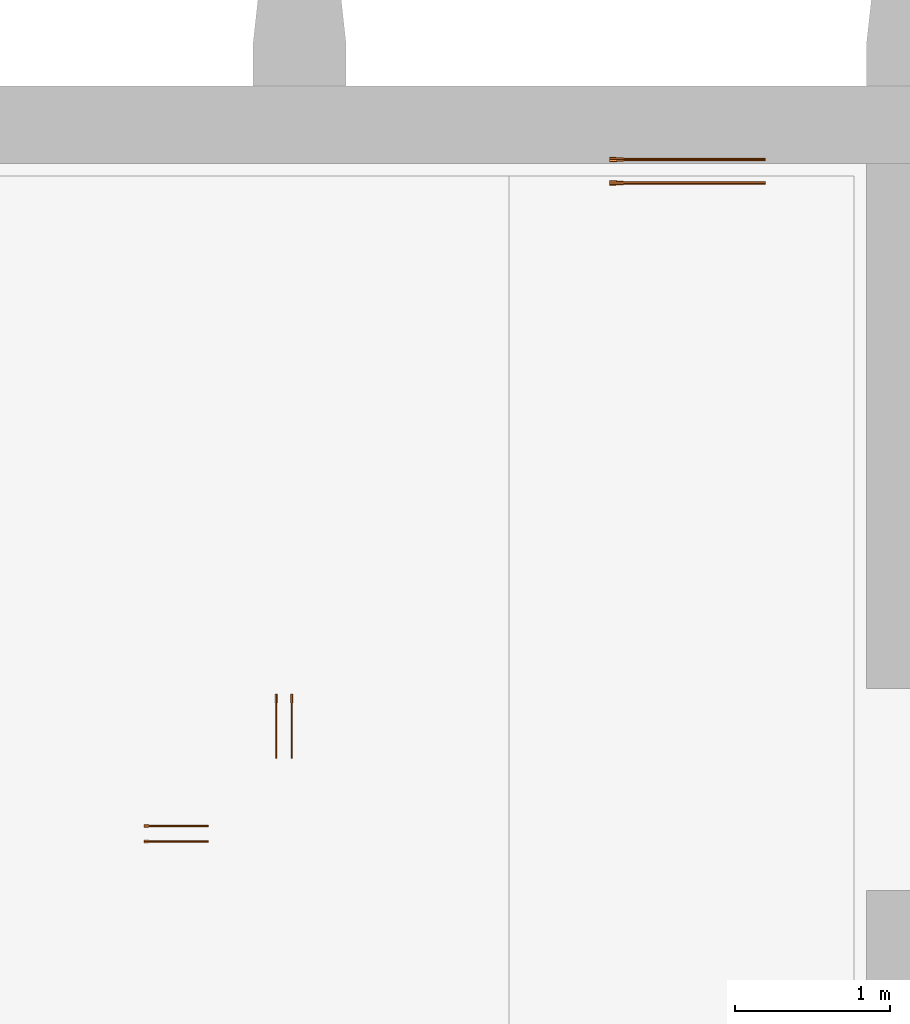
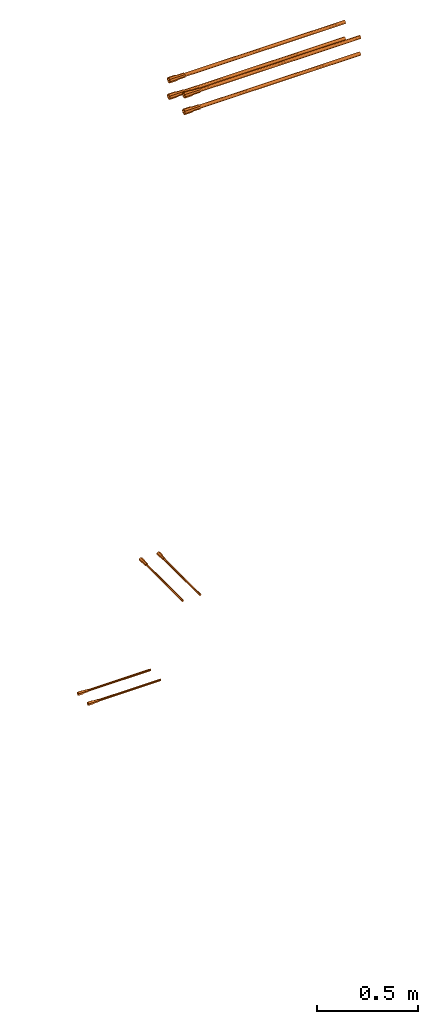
# One storey, part 22 of 22: 8 proxies.
"""IFC2X3 building model written with IfcOpenShell, lengths in millimetres."""

from ifc_helpers import new_model, entity, si_unit, converted_unit, derived_unit, direction, frame, frame_2d, origin, place, context, subcontext, project, spatial, circle, extrude, faceted_brep, source, transform, mapped, type_object, type_shapes, element, save


model = new_model("IFC2X3")

# Units and contexts
model_context = context("Model", 3, precision=0.01, world=origin(), true_north=direction((6.12303176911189e-17, 1.0)))
body_context = subcontext(model_context, "Body", "Model", "MODEL_VIEW")
ifc_project = project(units=[si_unit("LENGTHUNIT", "METRE", prefix="MILLI"), si_unit("AREAUNIT", "SQUARE_METRE"), si_unit("VOLUMEUNIT", "CUBIC_METRE"), converted_unit("PLANEANGLEUNIT", "DEGREE", entity("IfcRatioMeasure", 0.0174532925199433), si_unit("PLANEANGLEUNIT", "RADIAN"), dimensions=[0, 0, 0, 0, 0, 0, 0]), si_unit("MASSUNIT", "GRAM", prefix="KILO"), derived_unit("MASSDENSITYUNIT", [(si_unit("MASSUNIT", "GRAM", prefix="KILO"), 1), (si_unit("LENGTHUNIT", "METRE"), -3)]), si_unit("TIMEUNIT", "SECOND"), si_unit("FREQUENCYUNIT", "HERTZ"), si_unit("THERMODYNAMICTEMPERATUREUNIT", "DEGREE_CELSIUS"), derived_unit("THERMALTRANSMITTANCEUNIT", [(si_unit("MASSUNIT", "GRAM", prefix="KILO"), 1), (si_unit("THERMODYNAMICTEMPERATUREUNIT", "KELVIN"), -1), (si_unit("TIMEUNIT", "SECOND"), -3)]), derived_unit("VOLUMETRICFLOWRATEUNIT", [(si_unit("LENGTHUNIT", "METRE"), 3), (si_unit("TIMEUNIT", "SECOND"), -1)]), si_unit("ELECTRICCURRENTUNIT", "AMPERE"), si_unit("ELECTRICVOLTAGEUNIT", "VOLT"), si_unit("POWERUNIT", "WATT"), si_unit("FORCEUNIT", "NEWTON", prefix="KILO"), si_unit("ILLUMINANCEUNIT", "LUX"), si_unit("LUMINOUSFLUXUNIT", "LUMEN"), si_unit("LUMINOUSINTENSITYUNIT", "CANDELA"), derived_unit("USERDEFINED", [(si_unit("MASSUNIT", "GRAM", prefix="KILO"), -1), (si_unit("LENGTHUNIT", "METRE"), -2), (si_unit("TIMEUNIT", "SECOND"), 3), (si_unit("LUMINOUSFLUXUNIT", "LUMEN"), 1)]), derived_unit("LINEARVELOCITYUNIT", [(si_unit("LENGTHUNIT", "METRE"), 1), (si_unit("TIMEUNIT", "SECOND"), -1)]), si_unit("PRESSUREUNIT", "PASCAL"), derived_unit("USERDEFINED", [(si_unit("LENGTHUNIT", "METRE"), -2), (si_unit("MASSUNIT", "GRAM", prefix="KILO"), 1), (si_unit("TIMEUNIT", "SECOND"), -2)])], contexts=[model_context])

# Site, building, storey
site_placement = place(None, origin())
site = spatial("IfcSite", under=ifc_project, at=site_placement, Name="Default", CompositionType="ELEMENT")
building_placement = place(site_placement, origin())
building = spatial("IfcBuilding", under=site, at=building_placement, Name="niet gebruiken", CompositionType="ELEMENT")
storey_placement = place(building_placement, frame((0.0, 0.0, 15000.0)))
storey = spatial("IfcBuildingStorey", under=building, at=storey_placement, Name="04 vierde verdieping", CompositionType="ELEMENT", Elevation=15000.0)

# Proxies
building_element_proxy_type_1 = type_object("IfcBuildingElementProxyType", Name="Ø12/M16x415", PredefinedType="NOTDEFINED")
shared_shape_1 = source(origin(), body_context, "Body", "SolidModel", [
    extrude(circle(Radius=6.0, at=frame_2d((0.0, -9.69326744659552e-15), x_axis=(1.0, 0.0))), frame((34.9769027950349, 0.0, -415.0)), (0.0, 0.0, 1.0), 357.0),
    extrude(circle(Radius=6.0, at=frame_2d((0.0, -9.69326744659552e-15), x_axis=(1.0, 0.0))), frame((34.9769027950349, 0.0, -415.0)), (0.0, 0.0, 1.0), 357.0),
    faceted_brep([(24.476902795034, 0.0, 0.0), (29.7269027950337, 9.0932667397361, 0.0), (29.7269027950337, 9.0932667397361, -25.0), (24.476902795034, 0.0, -25.0), (40.2269027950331, 9.09326673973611, 0.0), (40.2269027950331, 9.09326673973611, -25.0), (45.4769027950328, 0.0, 0.0), (45.4769027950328, 0.0, -25.0), (40.2269027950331, -9.09326673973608, 0.0), (40.2269027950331, -9.09326673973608, -25.0), (29.7269027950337, -9.09326673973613, 0.0), (29.7269027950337, -9.09326673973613, -25.0), (30.8519027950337, 7.14470958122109, -33.0), (26.726902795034, 0.0, -33.0), (39.1019027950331, 7.14470958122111, -33.0), (43.2269027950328, 0.0, -33.0), (39.1019027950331, -7.14470958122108, -33.0), (30.8519027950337, -7.14470958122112, -33.0), (30.8519027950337, 7.14470958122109, -58.0), (26.726902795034, 0.0, -58.0), (39.1019027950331, 7.14470958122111, -58.0), (43.2269027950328, 0.0, -58.0), (39.1019027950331, -7.14470958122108, -58.0), (30.8519027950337, -7.14470958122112, -58.0), (34.9769027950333, 0.0, -58.0), (34.9769027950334, 0.0, -25.0), (43.2269027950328, 0.0, -25.0), (39.1019027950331, 7.14470958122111, -25.0), (30.8519027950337, 7.14470958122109, -25.0), (26.726902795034, 0.0, -25.0), (39.1019027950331, -7.14470958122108, -25.0), (30.8519027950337, -7.14470958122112, -25.0), (30.8519027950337, 7.14470958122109, 0.0), (26.726902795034, 0.0, 0.0), (39.1019027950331, 7.14470958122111, 0.0), (43.2269027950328, 0.0, 0.0), (39.1019027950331, -7.14470958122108, 0.0), (30.8519027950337, -7.14470958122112, 0.0)], [[[0, 1, 2, 3]], [[1, 4, 5, 2]], [[4, 6, 7, 5]], [[6, 8, 9, 7]], [[8, 10, 11, 9]], [[10, 0, 3, 11]], [[3, 2, 12, 13]], [[2, 5, 14, 12]], [[5, 7, 15, 14]], [[7, 9, 16, 15]], [[9, 11, 17, 16]], [[11, 3, 13, 17]], [[13, 12, 18, 19]], [[12, 14, 20, 18]], [[14, 15, 21, 20]], [[15, 16, 22, 21]], [[16, 17, 23, 22]], [[17, 13, 19, 23]], [[20, 21, 24]], [[24, 18, 20]], [[21, 22, 24]], [[23, 24, 22]], [[24, 23, 19]], [[24, 19, 18]], [[25, 26, 27]], [[27, 28, 25]], [[28, 29, 25]], [[25, 30, 26]], [[29, 31, 25]], [[30, 25, 31]], [[28, 32, 33, 29]], [[28, 27, 34, 32]], [[26, 35, 34, 27]], [[30, 36, 35, 26]], [[30, 31, 37, 36]], [[29, 33, 37, 31]], [[4, 35, 6]], [[35, 4, 34]], [[32, 34, 4]], [[4, 1, 32]], [[33, 32, 1]], [[1, 0, 33]], [[10, 33, 0]], [[33, 10, 37]], [[8, 37, 10]], [[35, 36, 8]], [[37, 8, 36]], [[8, 6, 35]]]),
])
type_shapes(building_element_proxy_type_1, [shared_shape_1])
for number, where, z_axis, x_axis in (
    (1, (130750.0, 28465.0, 153000.023097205), (-1.0, 0.0, 0.0), (0.0, 0.0, 1.0)),
    (2, (130750.0, 28365.0, 153000.023097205), (-1.0, 0.0, 0.0), (0.0, 0.0, 1.0)),
    (3, (131700.0, 29315.0, 153000.023097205), (0.0, 1.0, 0.0), (0.0, 0.0, 1.0)),
    (4, (131600.0, 29315.0, 153000.023097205), (0.0, 1.0, 0.0), (0.0, 0.0, 1.0)),
):
    element("IfcBuildingElementProxy", number, at=place(storey_placement, frame(where, z_axis=z_axis, x_axis=x_axis)), inside=storey, type_object=building_element_proxy_type_1, Name="GM_Stekanker_DEMU_4010 GV:Ø12/M16x415", ObjectType="Ø12/M16x415", context=body_context, shape_type="MappedRepresentation", body=[
        mapped(shared_shape_1, transform((0.0, 0.0, 0.0), scale=1.0)),
    ])
building_element_proxy_type_2 = type_object("IfcBuildingElementProxyType", Name="Ø20/M24x1005", PredefinedType="NOTDEFINED")
shared_shape_2 = source(origin(), body_context, "Body", "SolidModel", [
    extrude(circle(Radius=10.0, at=frame_2d((0.0, -1.61554457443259e-14), x_axis=(1.0, 0.0))), frame((34.9769027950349, 0.0, -1005.0)), (0.0, 0.0, 1.0), 915.0),
    extrude(circle(Radius=10.0, at=frame_2d((0.0, -1.61554457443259e-14), x_axis=(1.0, 0.0))), frame((34.9769027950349, 0.0, -1005.0)), (0.0, 0.0, 1.0), 915.0),
    faceted_brep([(29.3200485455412, 13.6568542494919, 0.0), (32.1484756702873, 14.8284271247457, 0.0), (34.9769027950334, 16.0, 0.0), (34.9769027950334, 16.0, -38.0), (32.1484756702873, 14.8284271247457, -38.0), (29.3200485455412, 13.6568542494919, -38.0), (26.4916214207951, 12.4852813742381, -38.0), (23.663194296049, 11.3137084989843, -38.0), (23.663194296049, 11.3137084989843, 0.0), (26.4916214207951, 12.4852813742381, 0.0), (49.805329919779, 2.82842712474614, 0.0), (50.9769027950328, 0.0, 0.0), (50.9769027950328, 0.0, -38.0), (50.0199937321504, 2.31018283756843, -38.0), (49.7680552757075, 2.91841607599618, -38.0), (48.6337570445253, 5.65685424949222, -38.0), (48.5592077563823, 5.83683215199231, -38.0), (47.4621841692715, 8.48528137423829, -38.0), (46.2906112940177, 11.3137084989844, -38.0), (46.2906112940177, 11.3137084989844, 0.0), (47.4621841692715, 8.48528137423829, 0.0), (48.6337570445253, 5.65685424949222, 0.0), (21.3200485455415, 5.65685424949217, 0.0), (22.4916214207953, 8.48528137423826, 0.0), (22.4916214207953, 8.48528137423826, -38.0), (22.2769576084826, 7.96703708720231, -38.0), (21.3200485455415, 5.65685424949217, -38.0), (20.8907209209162, 4.62036567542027, -38.0), (20.1484756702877, 2.82842712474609, -38.0), (18.976902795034, 0.0, -38.0), (18.976902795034, 0.0, 0.0), (20.1484756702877, 2.82842712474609, 0.0), (40.6337570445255, 13.6568542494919, 0.0), (43.4621841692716, 12.4852813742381, 0.0), (43.4621841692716, 12.4852813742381, -38.0), (40.6337570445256, 13.6568542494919, -38.0), (37.8053299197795, 14.8284271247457, -38.0), (37.8053299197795, 14.8284271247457, 0.0), (49.063084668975, -4.62036567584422, 0.0), (47.6768479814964, -7.96703708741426, 0.0), (46.2906112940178, -11.3137084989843, 0.0), (46.2906112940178, -11.3137084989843, -38.0), (47.4621841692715, -8.48528137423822, -38.0), (48.6337570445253, -5.65685424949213, -38.0), (49.8053299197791, -2.82842712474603, -38.0), (29.3200485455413, -13.6568542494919, 0.0), (26.4916214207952, -12.4852813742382, 0.0), (23.6631942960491, -11.3137084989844, 0.0), (23.6631942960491, -11.3137084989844, -38.0), (26.4916214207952, -12.4852813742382, -38.0), (29.3200485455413, -13.6568542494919, -38.0), (32.1484756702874, -14.8284271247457, -38.0), (34.9769027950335, -16.0, -38.0), (34.9769027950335, -16.0, 0.0), (32.1484756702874, -14.8284271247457, 0.0), (37.8053299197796, -14.8284271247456, -38.0), (40.6337570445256, -13.6568542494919, -38.0), (43.4621841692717, -12.4852813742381, -38.0), (43.4621841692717, -12.4852813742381, 0.0), (40.6337570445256, -13.6568542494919, 0.0), (37.8053299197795, -14.8284271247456, 0.0), (22.4916214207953, -8.48528137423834, 0.0), (21.3200485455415, -5.65685424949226, 0.0), (20.1484756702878, -2.82842712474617, 0.0), (19.9338118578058, -2.31018283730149, -38.0), (20.1857498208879, -2.91841488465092, -38.0), (21.3200485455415, -5.65685424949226, -38.0), (22.4916214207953, -8.48528137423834, -38.0), (25.7845146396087, 9.19238815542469, -52.0), (24.8628969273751, 6.96740617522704, -52.0), (23.9412792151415, 4.7424241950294, -52.0), (22.9590910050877, 2.3712120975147, -52.0), (21.976902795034, 0.0, -52.0), (44.1692909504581, 9.19238815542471, -52.0), (47.9769027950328, 0.0, -52.0), (46.994714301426, 2.37121278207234, -52.0), (46.0730968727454, 4.59619407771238, -52.0), (45.1211939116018, 6.89429111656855, -52.0), (34.9769027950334, 13.0, -52.0), (32.6788057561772, 12.0480970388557, -52.0), (30.380708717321, 11.096194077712, -52.0), (28.0826116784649, 10.1442911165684, -52.0), (37.2749998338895, 12.0480970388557, -52.0), (41.8711939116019, 10.1442911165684, -52.0), (39.5730968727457, 11.0961940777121, -52.0), (44.1692909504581, -9.19238815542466, -52.0), (45.0909086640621, -6.96740617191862, -52.0), (45.3722781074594, -6.28812024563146, -52.0), (46.0125263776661, -4.74242418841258, -52.0), (46.5752652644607, -3.38385233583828, -52.0), (46.9947145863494, -2.37121209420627, -52.0), (28.0826116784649, -10.1442911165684, -52.0), (30.3807087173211, -11.0961940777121, -52.0), (32.6788057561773, -12.0480970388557, -52.0), (34.9769027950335, -13.0, -52.0), (25.7845146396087, -9.19238815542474, -52.0), (37.2749998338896, -12.0480970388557, -52.0), (39.5730968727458, -11.096194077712, -52.0), (41.871193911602, -10.1442911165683, -52.0), (22.9288057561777, -2.29809703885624, -52.0), (23.8807087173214, -4.59619407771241, -52.0), (24.8326116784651, -6.89429111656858, -52.0), (32.6788057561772, 12.0480970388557, -90.0), (30.380708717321, 11.096194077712, -90.0), (28.0826116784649, 10.1442911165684, -90.0), (25.7845146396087, 9.19238815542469, -90.0), (34.9769027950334, 13.0, -90.0), (47.9769027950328, 0.0, -90.0), (47.2760840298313, 1.691926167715, -90.0), (46.0730968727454, 4.59619407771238, -90.0), (45.1211939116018, 6.89429111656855, -90.0), (44.1692909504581, 9.19238815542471, -90.0), (23.3785403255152, 3.38385233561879, -90.0), (21.976902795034, 0.0, -90.0), (24.5815274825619, 6.28812024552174, -90.0), (41.8711939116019, 10.1442911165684, -90.0), (39.5730968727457, 11.0961940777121, -90.0), (37.2749998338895, 12.0480970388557, -90.0), (46.0730968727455, -4.5961940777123, -90.0), (47.0249998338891, -2.29809703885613, -90.0), (44.1692909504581, -9.19238815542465, -90.0), (45.1211939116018, -6.89429111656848, -90.0), (25.7845146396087, -9.19238815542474, -90.0), (28.0826116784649, -10.1442911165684, -90.0), (30.3807087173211, -11.0961940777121, -90.0), (32.6788057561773, -12.0480970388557, -90.0), (34.9769027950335, -13.0, -90.0), (37.2749998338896, -12.0480970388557, -90.0), (39.5730968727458, -11.096194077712, -90.0), (41.871193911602, -10.1442911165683, -90.0), (22.6777215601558, -1.6919261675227, -90.0), (23.8807087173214, -4.59619407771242, -90.0), (24.8326116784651, -6.89429111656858, -90.0), (34.9769027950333, 0.0, -90.0), (34.9769027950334, 0.0, -38.0), (47.9769027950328, 0.0, -38.0), (47.2760840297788, 1.69192616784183, -38.0), (46.0730968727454, 4.59619407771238, -38.0), (45.1211939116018, 6.89429111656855, -38.0), (44.1692909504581, 9.19238815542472, -38.0), (41.8711939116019, 10.1442911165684, -38.0), (39.5730968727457, 11.0961940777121, -38.0), (37.2749998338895, 12.0480970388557, -38.0), (34.9769027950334, 13.0, -38.0), (32.6788057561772, 12.0480970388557, -38.0), (30.380708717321, 11.096194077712, -38.0), (28.0826116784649, 10.1442911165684, -38.0), (25.7845146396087, 9.19238815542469, -38.0), (24.5815274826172, 6.28812024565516, -38.0), (23.3785403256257, 3.38385233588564, -38.0), (21.976902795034, 0.0, -38.0), (22.6777215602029, -1.69192616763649, -38.0), (47.0249998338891, -2.29809703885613, -38.0), (46.0730968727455, -4.59619407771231, -38.0), (45.1211939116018, -6.89429111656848, -38.0), (44.1692909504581, -9.19238815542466, -38.0), (41.871193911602, -10.1442911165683, -38.0), (39.5730968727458, -11.096194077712, -38.0), (37.2749998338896, -12.0480970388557, -38.0), (34.9769027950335, -13.0, -38.0), (23.8807087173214, -4.59619407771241, -38.0), (24.8326116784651, -6.89429111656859, -38.0), (25.7845146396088, -9.19238815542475, -38.0), (28.0826116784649, -10.1442911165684, -38.0), (30.3807087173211, -11.0961940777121, -38.0), (32.6788057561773, -12.0480970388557, -38.0), (32.6788057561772, 12.0480970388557, 0.0), (30.380708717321, 11.096194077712, 0.0), (28.0826116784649, 10.1442911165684, 0.0), (25.7845146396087, 9.19238815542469, 0.0), (34.9769027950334, 13.0, 0.0), (47.9769027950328, 0.0, 0.0), (47.0249998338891, 2.29809703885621, 0.0), (46.0730968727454, 4.59619407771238, 0.0), (45.1211939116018, 6.89429111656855, 0.0), (44.1692909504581, 9.19238815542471, 0.0), (24.832611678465, 6.89429111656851, 0.0), (23.8807087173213, 4.59619407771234, 0.0), (22.9288057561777, 2.29809703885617, 0.0), (21.976902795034, 0.0, 0.0), (37.2749998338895, 12.0480970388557, 0.0), (41.8711939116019, 10.1442911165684, 0.0), (39.5730968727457, 11.0961940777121, 0.0), (44.1692909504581, -9.19238815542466, 0.0), (45.3722781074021, -6.28812024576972, 0.0), (46.5752652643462, -3.38385233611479, 0.0), (32.6788057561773, -12.0480970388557, 0.0), (34.9769027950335, -13.0, 0.0), (25.7845146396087, -9.19238815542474, 0.0), (28.0826116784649, -10.1442911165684, 0.0), (30.3807087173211, -11.0961940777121, 0.0), (37.2749998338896, -12.0480970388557, 0.0), (39.5730968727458, -11.096194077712, 0.0), (41.871193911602, -10.1442911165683, 0.0), (22.9288057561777, -2.29809703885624, 0.0), (23.8807087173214, -4.59619407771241, 0.0), (24.8326116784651, -6.89429111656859, 0.0)], [[[0, 1, 2, 3, 4, 5, 6, 7, 8, 9]], [[10, 11, 12, 13, 14, 15, 16, 17, 18, 19, 20, 21]], [[22, 23, 8, 7, 24, 25, 26, 27, 28, 29, 30, 31]], [[32, 33, 19, 18, 34, 35, 36, 3, 2, 37]], [[38, 39, 40, 41, 42, 43, 44, 12, 11]], [[45, 46, 47, 48, 49, 50, 51, 52, 53, 54]], [[53, 52, 55, 56, 57, 41, 40, 58, 59, 60]], [[48, 47, 61, 62, 63, 30, 29, 64, 65, 66, 67]], [[7, 68, 69, 70, 71, 72, 29, 28, 27, 26, 25, 24]], [[73, 18, 17, 16, 15, 14, 13, 12, 74, 75, 76, 77]], [[4, 3, 78, 79, 80, 81, 68, 7, 6, 5]], [[82, 78, 3, 36, 35, 34, 18, 73, 83, 84]], [[41, 85, 86, 87, 88, 89, 90, 74, 12, 44, 43, 42]], [[91, 92, 93, 94, 52, 51, 50, 49, 48, 95]], [[55, 52, 94, 96, 97, 98, 85, 41, 57, 56]], [[99, 100, 101, 95, 48, 67, 66, 65, 64, 29, 72]], [[102, 103, 104, 105, 68, 81, 80, 79, 78, 106]], [[75, 74, 107, 108, 109, 110, 111, 73, 77, 76]], [[112, 113, 72, 71, 70, 69, 68, 105, 114]], [[84, 83, 73, 111, 115, 116, 117, 106, 78, 82]], [[118, 119, 107, 74, 90, 89, 88, 87, 86, 85, 120, 121]], [[92, 91, 95, 122, 123, 124, 125, 126, 94, 93]], [[94, 126, 127, 128, 129, 120, 85, 98, 97, 96]], [[122, 95, 101, 100, 99, 72, 113, 130, 131, 132]], [[133, 111, 110]], [[133, 110, 109]], [[133, 109, 108]], [[133, 108, 107]], [[133, 107, 119]], [[133, 115, 111]], [[133, 116, 115]], [[133, 117, 116]], [[133, 106, 117]], [[133, 102, 106]], [[133, 103, 102]], [[133, 104, 103]], [[133, 105, 104]], [[133, 114, 105]], [[133, 112, 114]], [[133, 113, 112]], [[133, 119, 118]], [[133, 118, 121]], [[133, 121, 120]], [[133, 120, 129]], [[133, 129, 128]], [[133, 128, 127]], [[133, 127, 126]], [[133, 126, 125]], [[133, 130, 113]], [[133, 131, 130]], [[133, 132, 131]], [[133, 122, 132]], [[133, 125, 124]], [[133, 124, 123]], [[133, 123, 122]], [[134, 135, 136]], [[134, 136, 137]], [[134, 137, 138]], [[134, 138, 139]], [[134, 139, 140]], [[134, 140, 141]], [[134, 141, 142]], [[134, 142, 143]], [[134, 143, 144]], [[134, 144, 145]], [[134, 145, 146]], [[134, 146, 147]], [[134, 147, 148]], [[134, 148, 149]], [[134, 149, 150]], [[134, 150, 151]], [[134, 152, 135]], [[134, 153, 152]], [[134, 154, 153]], [[134, 155, 154]], [[134, 156, 155]], [[134, 157, 156]], [[134, 158, 157]], [[134, 159, 158]], [[134, 151, 160]], [[134, 160, 161]], [[134, 161, 162]], [[134, 162, 163]], [[134, 163, 164]], [[134, 164, 165]], [[134, 165, 159]], [[166, 167, 168, 169, 147, 146, 145, 144, 143, 170]], [[136, 135, 171, 172, 173, 174, 175, 139, 138, 137]], [[148, 147, 169, 176, 177, 178, 179, 150, 149]], [[180, 170, 143, 142, 141, 140, 139, 175, 181, 182]], [[153, 154, 155, 183, 184, 185, 171, 135, 152]], [[186, 187, 159, 165, 164, 163, 162, 188, 189, 190]], [[158, 159, 187, 191, 192, 193, 183, 155, 156, 157]], [[161, 160, 151, 150, 179, 194, 195, 196, 188, 162]], [[171, 11, 10]], [[171, 10, 21]], [[171, 21, 20]], [[171, 20, 19]], [[19, 172, 171]], [[171, 38, 11]], [[171, 39, 38]], [[171, 40, 39]], [[40, 171, 185]], [[40, 185, 184]], [[40, 184, 183]], [[183, 58, 40]], [[183, 59, 58]], [[183, 60, 59]], [[183, 53, 60]], [[53, 183, 193]], [[53, 193, 192]], [[53, 192, 191]], [[53, 191, 187]], [[53, 187, 186]], [[53, 186, 190]], [[53, 190, 189]], [[53, 189, 188]], [[188, 54, 53]], [[188, 45, 54]], [[188, 46, 45]], [[188, 47, 46]], [[47, 188, 196]], [[47, 196, 195]], [[47, 195, 194]], [[47, 194, 179]], [[179, 61, 47]], [[179, 62, 61]], [[179, 63, 62]], [[179, 30, 63]], [[179, 31, 30]], [[179, 22, 31]], [[179, 23, 22]], [[179, 8, 23]], [[8, 179, 178]], [[8, 178, 177]], [[8, 177, 176]], [[8, 176, 169]], [[169, 9, 8]], [[169, 0, 9]], [[169, 1, 0]], [[169, 2, 1]], [[2, 169, 168]], [[2, 168, 167]], [[2, 167, 166]], [[2, 166, 170]], [[2, 170, 180]], [[2, 180, 182]], [[2, 182, 181]], [[2, 181, 175]], [[175, 19, 33]], [[19, 175, 174]], [[175, 33, 32]], [[175, 32, 37]], [[175, 37, 2]], [[19, 174, 173]], [[19, 173, 172]]]),
])
type_shapes(building_element_proxy_type_2, [shared_shape_2])
for number, where, z_axis, x_axis in (
    (5, (133745.0, 32755.0, 153050.023097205), (-1.0, 0.0, 0.0), (0.0, 0.0, 1.0)),
    (6, (133745.0, 32605.0, 153050.023097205), (-1.0, 0.0, 0.0), (0.0, 0.0, 1.0)),
    (7, (133745.0, 32755.0, 152950.023097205), (-1.0, 0.0, 0.0), (0.0, 0.0, 1.0)),
    (8, (133745.0, 32605.0, 152950.023097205), (-1.0, 0.0, 0.0), (0.0, 0.0, 1.0)),
):
    element("IfcBuildingElementProxy", number, at=place(storey_placement, frame(where, z_axis=z_axis, x_axis=x_axis)), inside=storey, type_object=building_element_proxy_type_2, Name="GM_Stekanker_DEMU_4010 GV:Ø20/M24x1005", ObjectType="Ø20/M24x1005", context=body_context, shape_type="MappedRepresentation", body=[
        mapped(shared_shape_2, transform((0.0, 0.0, 0.0), scale=1.0)),
    ])

save(model, "model.ifc")
